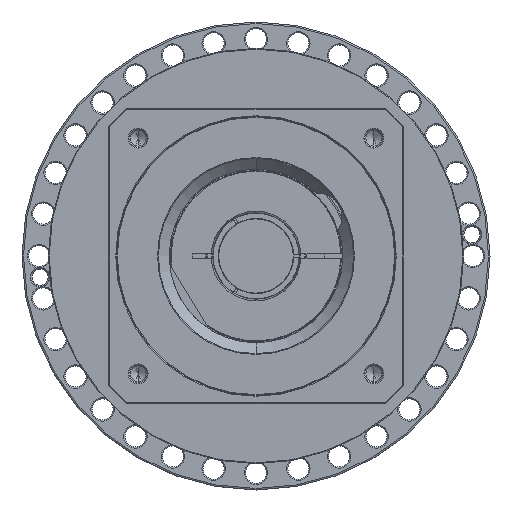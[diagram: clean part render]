
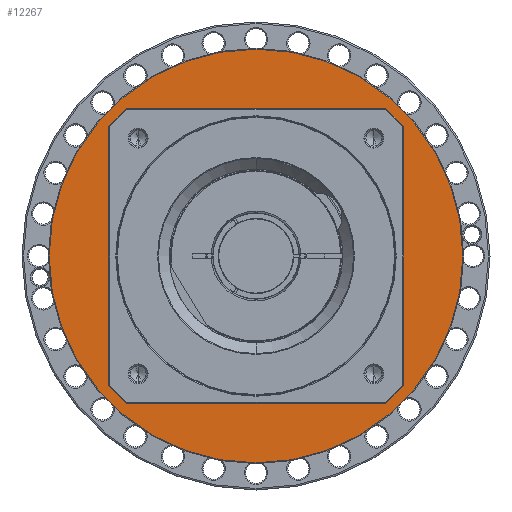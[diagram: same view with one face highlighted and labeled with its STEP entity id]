
A CAD part, left-side view. The second image highlights one B-rep face of the part: STEP entity #12267.
In plain terms, the highlighted planar face has unit normal (-1, 0, 0) as drawn and (1, 0, 0) by its records, which use the part's own axes.
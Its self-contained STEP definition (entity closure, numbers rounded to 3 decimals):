
#11746=CARTESIAN_POINT('',(-6.,0.,0.));
#11747=DIRECTION('',(-1.,0.,0.));
#11748=DIRECTION('',(0.,-1.,0.));
#11749=AXIS2_PLACEMENT_3D('',#11746,#11747,#11748);
#11751=CARTESIAN_POINT('',(-6.,0.,0.));
#11752=DIRECTION('',(-1.,0.,0.));
#11753=DIRECTION('',(0.,1.,0.));
#11754=AXIS2_PLACEMENT_3D('',#11751,#11752,#11753);
#11756=CARTESIAN_POINT('',(-6.,0.,0.));
#11757=DIRECTION('',(-1.,0.,0.));
#11758=DIRECTION('',(0.,-1.,0.));
#11759=AXIS2_PLACEMENT_3D('',#11756,#11757,#11758);
#11761=CARTESIAN_POINT('',(-6.,0.,0.));
#11762=DIRECTION('',(-1.,0.,0.));
#11763=DIRECTION('',(0.,1.,0.));
#11764=AXIS2_PLACEMENT_3D('',#11761,#11762,#11763);
#11830=CARTESIAN_POINT('',(-6.,-133.5,0.));
#11831=CARTESIAN_POINT('',(-6.,133.5,0.));
#11832=VERTEX_POINT('',#11830);
#11833=VERTEX_POINT('',#11831);
#11854=CARTESIAN_POINT('',(-6.,-94.,0.));
#11855=CARTESIAN_POINT('',(-6.,94.,0.));
#11856=VERTEX_POINT('',#11854);
#11857=VERTEX_POINT('',#11855);
#12252=CARTESIAN_POINT('',(-6.,0.,0.));
#12253=DIRECTION('',(1.,0.,0.));
#12254=DIRECTION('',(0.,-1.,0.));
#12255=AXIS2_PLACEMENT_3D('',#12252,#12253,#12254);
#12256=PLANE('',#12255);
#12257=ORIENTED_EDGE('',*,*,#12193,.T.);
#12258=ORIENTED_EDGE('',*,*,#12208,.T.);
#12259=EDGE_LOOP('',(#12257,#12258));
#12260=FACE_OUTER_BOUND('',#12259,.F.);
#12262=ORIENTED_EDGE('',*,*,#12261,.F.);
#12264=ORIENTED_EDGE('',*,*,#12263,.F.);
#12265=EDGE_LOOP('',(#12262,#12264));
#12266=FACE_BOUND('',#12265,.F.);
#12267=ADVANCED_FACE('',(#12260,#12266),#12256,.T.);
#11750=CIRCLE('',#11749,94.);
#11755=CIRCLE('',#11754,94.);
#11760=CIRCLE('',#11759,133.5);
#11765=CIRCLE('',#11764,133.5);
#12193=EDGE_CURVE('',#11832,#11833,#11760,.T.);
#12208=EDGE_CURVE('',#11833,#11832,#11765,.T.);
#12261=EDGE_CURVE('',#11856,#11857,#11750,.T.);
#12263=EDGE_CURVE('',#11857,#11856,#11755,.T.);
